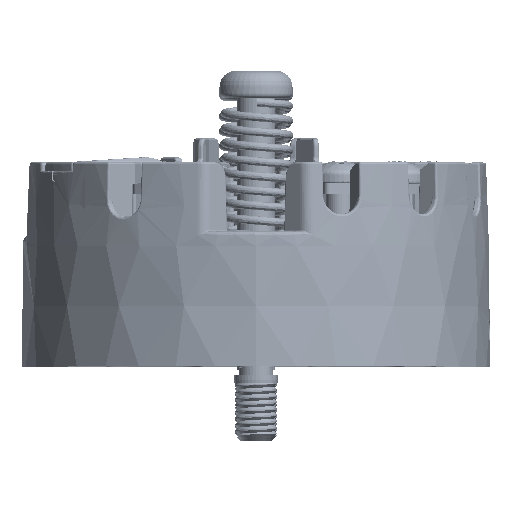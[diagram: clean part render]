
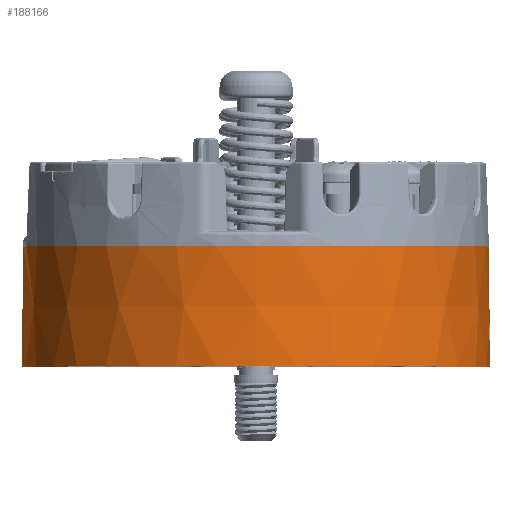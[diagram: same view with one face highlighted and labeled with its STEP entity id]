
A CAD part, top view. The second image highlights one B-rep face of the part: STEP entity #188166.
In plain terms, the highlighted conical face has half-angle 0.5 degrees and reference radius 21.951 mm.
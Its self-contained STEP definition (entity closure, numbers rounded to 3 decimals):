
#8917=CARTESIAN_POINT('',(0.,0.,0.));
#8918=DIRECTION('',(0.,-1.,0.));
#8919=DIRECTION('',(0.,0.,1.));
#8920=AXIS2_PLACEMENT_3D('',#8917,#8918,#8919);
#15743=CARTESIAN_POINT('',(0.,0.,0.));
#15744=DIRECTION('',(0.,-1.,0.));
#15745=DIRECTION('',(1.,0.,0.));
#15746=AXIS2_PLACEMENT_3D('',#15743,#15744,#15745);
#78568=DIRECTION('',(-0.009,1.,0.));
#78569=VECTOR('',#78568,11.3);
#78570=CARTESIAN_POINT('',(22.,-11.3,0.));
#78571=LINE('',#78570,#78569);
#78575=DIRECTION('',(0.009,1.,0.));
#78576=VECTOR('',#78575,11.3);
#78577=CARTESIAN_POINT('',(-22.,-11.3,0.));
#78578=LINE('',#78577,#78576);
#78582=CARTESIAN_POINT('',(0.,-11.3,0.));
#78583=DIRECTION('',(0.,1.,0.));
#78584=DIRECTION('',(-1.,0.,0.));
#78585=AXIS2_PLACEMENT_3D('',#78582,#78583,#78584);
#78951=CARTESIAN_POINT('',(21.931,-6.807,
1.149));
#78952=CARTESIAN_POINT('',(21.936,-6.807,1.056));
#78953=CARTESIAN_POINT('',(21.944,-6.834,
0.867));
#78954=CARTESIAN_POINT('',(21.954,-6.954,
0.604));
#78955=CARTESIAN_POINT('',(21.961,-7.145,
0.386));
#78956=CARTESIAN_POINT('',(21.965,-7.388,
0.233));
#78957=CARTESIAN_POINT('',(21.968,-7.66,
0.154));
#78958=CARTESIAN_POINT('',(21.97,-7.949,
0.156));
#78959=CARTESIAN_POINT('',(21.972,-8.219,
0.236));
#78960=CARTESIAN_POINT('',(21.972,-8.46,
0.39));
#78961=CARTESIAN_POINT('',(21.969,-8.647,
0.607));
#78962=CARTESIAN_POINT('',(21.961,-8.766,
0.867));
#78963=CARTESIAN_POINT('',(21.953,-8.794,
1.056));
#78964=CARTESIAN_POINT('',(21.948,-8.794,
1.15));
#78994=CARTESIAN_POINT('',(21.948,-8.794,
1.15));
#78995=CARTESIAN_POINT('',(21.943,-8.794,
1.244));
#78996=CARTESIAN_POINT('',(21.932,-8.767,
1.432));
#78997=CARTESIAN_POINT('',(21.912,-8.647,
1.694));
#78998=CARTESIAN_POINT('',(21.892,-8.456,
1.912));
#78999=CARTESIAN_POINT('',(21.876,-8.213,
2.065));
#79000=CARTESIAN_POINT('',(21.866,-7.941,
2.143));
#79001=CARTESIAN_POINT('',(21.864,-7.652,
2.142));
#79002=CARTESIAN_POINT('',(21.869,-7.382,
2.062));
#79003=CARTESIAN_POINT('',(21.881,-7.141,
1.908));
#79004=CARTESIAN_POINT('',(21.897,-6.954,
1.692));
#79005=CARTESIAN_POINT('',(21.915,-6.835,
1.433));
#79006=CARTESIAN_POINT('',(21.926,-6.807,
1.244));
#79007=CARTESIAN_POINT('',(21.931,-6.807,
1.149));
#90034=CARTESIAN_POINT('',(21.948,-8.794,
1.15));
#90035=VERTEX_POINT('',#90034);
#90036=CARTESIAN_POINT('',(21.931,-6.807,
1.149));
#90037=VERTEX_POINT('',#90036);
#90038=CARTESIAN_POINT('',(21.901,0.,0.));
#90039=CARTESIAN_POINT('',(0.,0.,
21.901));
#90040=VERTEX_POINT('',#90038);
#90041=VERTEX_POINT('',#90039);
#90042=CARTESIAN_POINT('',(22.,-11.3,0.));
#90043=VERTEX_POINT('',#90042);
#90044=CARTESIAN_POINT('',(-22.,-11.3,0.));
#90045=VERTEX_POINT('',#90044);
#90046=CARTESIAN_POINT('',(-21.901,0.,0.));
#90047=VERTEX_POINT('',#90046);
#188147=CARTESIAN_POINT('',(0.,-5.65,0.));
#188148=DIRECTION('',(0.,-1.,0.));
#188149=DIRECTION('',(1.,0.,0.));
#188150=AXIS2_PLACEMENT_3D('',#188147,#188148,#188149);
#188151=CONICAL_SURFACE('',#188150,21.951,0.5);
#188152=ORIENTED_EDGE('',*,*,#110110,.F.);
#188153=ORIENTED_EDGE('',*,*,#188142,.F.);
#188155=ORIENTED_EDGE('',*,*,#188154,.F.);
#188156=ORIENTED_EDGE('',*,*,#188138,.T.);
#188157=ORIENTED_EDGE('',*,*,#105441,.F.);
#188158=EDGE_LOOP('',(#188152,#188153,#188155,#188156,#188157));
#188159=FACE_OUTER_BOUND('',#188158,.F.);
#188161=ORIENTED_EDGE('',*,*,#188160,.F.);
#188163=ORIENTED_EDGE('',*,*,#188162,.F.);
#188164=EDGE_LOOP('',(#188161,#188163));
#188165=FACE_BOUND('',#188164,.F.);
#8921=CIRCLE('',#8920,21.901);
#15747=CIRCLE('',#15746,21.901);
#78586=CIRCLE('',#78585,22.);
#78965=B_SPLINE_CURVE_WITH_KNOTS('',3,(#78951,#78952,#78953,#78954,#78955,
#78956,#78957,#78958,#78959,#78960,#78961,#78962,#78963,#78964),.UNSPECIFIED.,
.F.,.F.,(4,1,1,1,1,1,1,1,1,1,1,4),(0.,0.091,0.182,
0.273,0.364,0.455,0.545,
0.636,0.727,0.818,0.909,1.),
.UNSPECIFIED.);
#79008=B_SPLINE_CURVE_WITH_KNOTS('',3,(#78994,#78995,#78996,#78997,#78998,
#78999,#79000,#79001,#79002,#79003,#79004,#79005,#79006,#79007),.UNSPECIFIED.,
.F.,.F.,(4,1,1,1,1,1,1,1,1,1,1,4),(0.,0.091,0.182,
0.273,0.364,0.455,0.545,
0.636,0.727,0.818,0.909,1.),
.UNSPECIFIED.);
#105441=EDGE_CURVE('',#90041,#90047,#8921,.T.);
#110110=EDGE_CURVE('',#90040,#90041,#15747,.T.);
#188138=EDGE_CURVE('',#90045,#90047,#78578,.T.);
#188142=EDGE_CURVE('',#90043,#90040,#78571,.T.);
#188154=EDGE_CURVE('',#90045,#90043,#78586,.T.);
#188160=EDGE_CURVE('',#90037,#90035,#78965,.T.);
#188162=EDGE_CURVE('',#90035,#90037,#79008,.T.);
#188166=ADVANCED_FACE('',(#188159,#188165),#188151,.T.);
